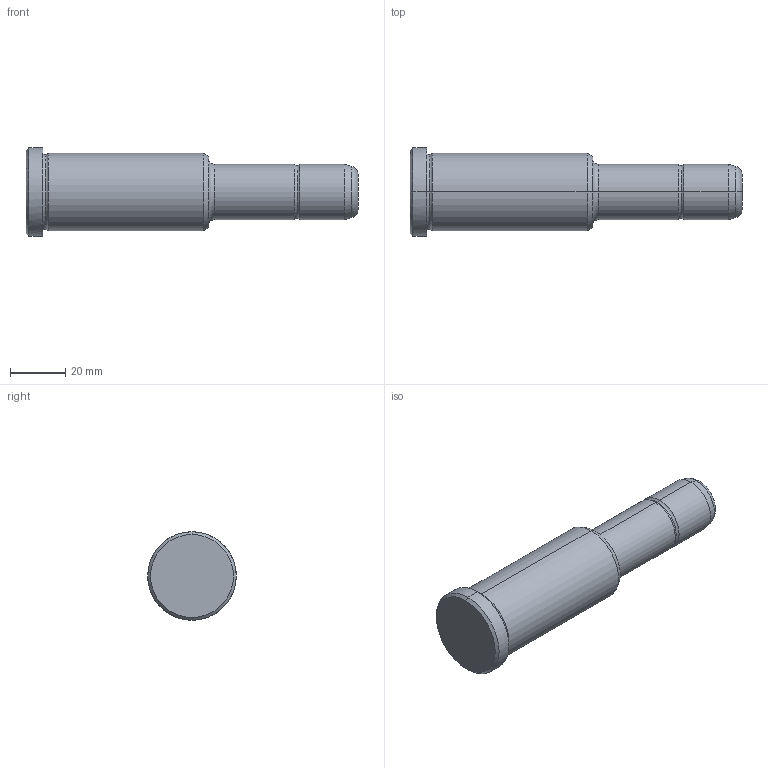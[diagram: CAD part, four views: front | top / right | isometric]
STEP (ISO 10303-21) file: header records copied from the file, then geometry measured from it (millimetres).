
FILE_DESCRIPTION(('CATIA V5 STEP Exchange'),'2;1');
FILE_NAME('C:\Users\Utente\Desktop\IO LAVORO\3D X SITO CF\X SITO\PLASTICA\351\351-20X66X120.stp','2021-08-27T13:16:41+00:00',('none'),('none'),'CATIA Version 5 Release 20 GA (IN-10)','CATIA V5 STEP AP203','none');
FILE_SCHEMA(('CONFIG_CONTROL_DESIGN'));
Length unit declared in the file: millimetre
Products named in the file (1): 351-20X66X120
Bounding box: 120 x 32 x 32 mm (x, y, z)
Volume: 58286 mm3; surface area: 10601.4 mm2
Topology: 1 solids, 1 shells, 30 faces, 86 edges, 60 vertices
Faces by surface type: torus 12, cylinder 8, cone 6, plane 4
Entity records: 1112 total; most frequent: CARTESIAN_POINT 289, ORIENTED_EDGE 172, DIRECTION 138, AXIS2_PLACEMENT_3D 95, EDGE_CURVE 86, CIRCLE 64, VERTEX_POINT 60, EDGE_LOOP 32
